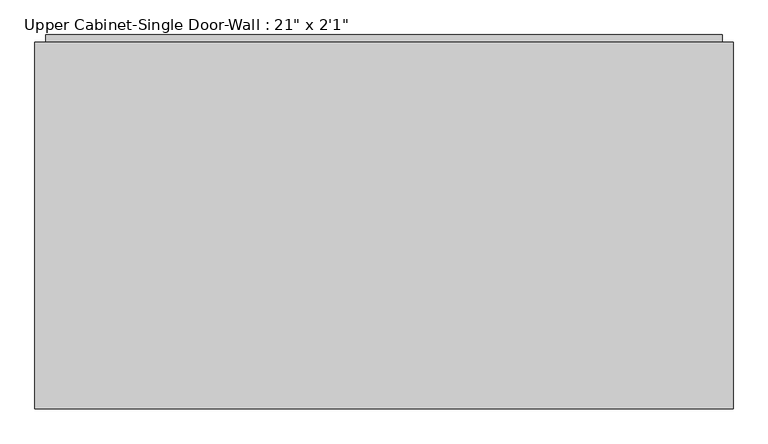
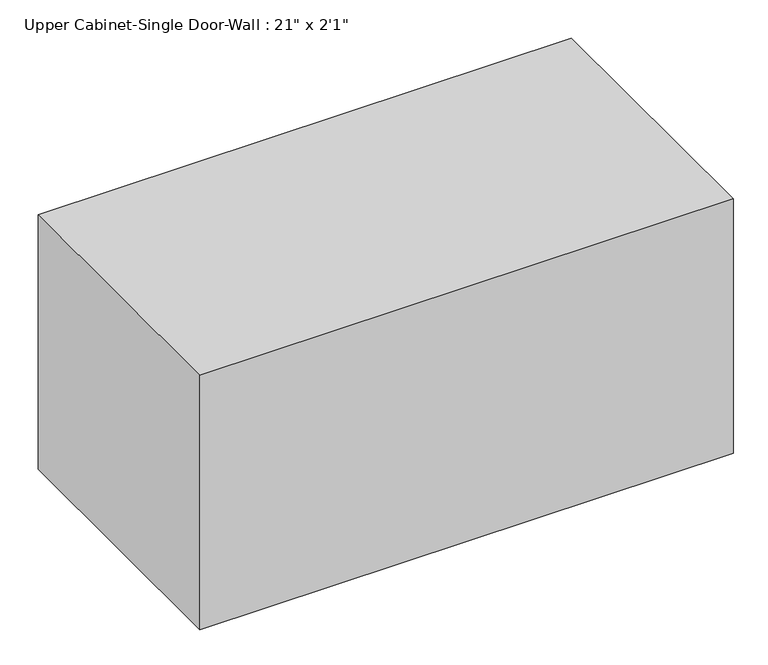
"""IFC4 building model written with IfcOpenShell, lengths in millimetres: furniture geometry."""

from ifc_helpers import new_model, si_unit, frame, origin, place, context, project, spatial, polyline, outline, extrude, faceted_brep, source, transform, mapped, element, save


def furniture_2e8e266d(model_context):
    return source(origin(), model_context, "Body", "SolidModel", [
        faceted_brep([(-949.5689372, 203.2, 2133.6), (-949.5689372, 203.2, 1524.0), (258.3711628, 203.2, 1524.0), (258.3711628, 203.2, 2133.6), (-949.5689372, 838.2, 2133.6), (258.3711628, 838.2, 2133.6), (258.3711628, 838.2, 1524.0), (-949.5689372, 838.2, 1524.0), (-930.5189372, 838.2, 2114.55), (-930.5189372, 838.2, 1543.05), (239.3211628, 838.2, 1543.05), (239.3211628, 838.2, 2114.55), (239.3211628, 222.25, 2114.55), (-930.5189372, 222.25, 2114.55), (239.3211628, 222.25, 1543.05), (-930.5189372, 222.25, 1543.05)], [[[0, 1, 2, 3]], [[4, 5, 6, 7], [8, 9, 10, 11]], [[1, 0, 4, 7]], [[2, 1, 7, 6]], [[3, 2, 6, 5]], [[0, 3, 5, 4]], [[8, 11, 12, 13]], [[11, 10, 14, 12]], [[10, 9, 15, 14]], [[9, 8, 13, 15]], [[13, 12, 14, 15]]]),
        extrude(outline(polyline([(-930.5189372, 850.9), (239.3211628, 850.9), (239.3211628, 819.15), (-930.5189372, 819.15), (-930.5189372, 850.9)])), frame((0.0, 0.0, 1543.05), z_axis=(0.0, 0.0, 1.0), x_axis=(1.0, 0.0, 0.0)), (0.0, 0.0, 1.0), 571.5),
    ])


if __name__ == "__main__":
    model = new_model("IFC4")
    model_context = context("Model", 3, world=origin())
    ifc_project = project(units=[si_unit("LENGTHUNIT", "METRE", prefix="MILLI")], contexts=[model_context])
    site = spatial("IfcSite", under=ifc_project)
    building = spatial("IfcBuilding", under=site)
    placement = place(None, origin())
    furniture_shape = furniture_2e8e266d(model_context)
    element("IfcFurniture", 1, ObjectType="Upper Cabinet-Single Door-Wall : 21\" x 2'1\"", at=placement, inside=building, context=model_context, shape_type="MappedRepresentation", body=[
        mapped(furniture_shape, transform((0.0, 0.0, 0.0), x_axis=(1.0, 0.0, 0.0), y_axis=(0.0, 1.0, 0.0), z_axis=(0.0, 0.0, 1.0))),
    ])
    save(model, "model.ifc")
